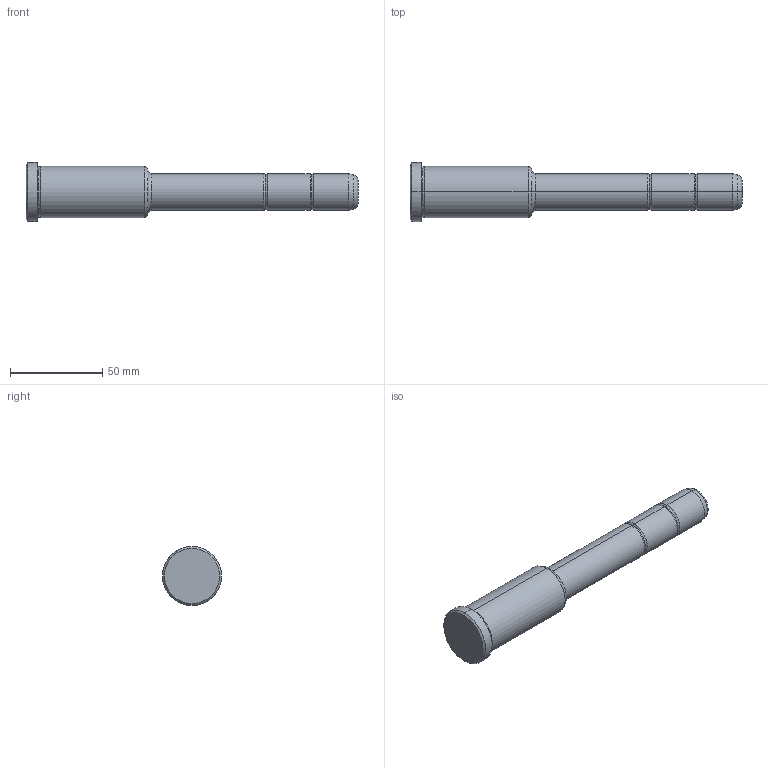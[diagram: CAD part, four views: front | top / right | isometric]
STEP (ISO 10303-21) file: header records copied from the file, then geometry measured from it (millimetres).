
FILE_DESCRIPTION(('CATIA V5 STEP Exchange'),'2;1');
FILE_NAME('C:\Users\Utente\Desktop\IO LAVORO\3D X SITO CF\X SITO\PLASTICA\351\351-20X66X180.stp','2021-08-27T13:13:10+00:00',('none'),('none'),'CATIA Version 5 Release 20 GA (IN-10)','CATIA V5 STEP AP203','none');
FILE_SCHEMA(('CONFIG_CONTROL_DESIGN'));
Length unit declared in the file: millimetre
Products named in the file (1): 351-20X66X180
Bounding box: 180 x 32 x 32 mm (x, y, z)
Volume: 77092.6 mm3; surface area: 14386.5 mm2
Topology: 1 solids, 1 shells, 36 faces, 102 edges, 70 vertices
Faces by surface type: torus 16, cylinder 10, cone 6, plane 4
Entity records: 1292 total; most frequent: CARTESIAN_POINT 321, ORIENTED_EDGE 204, DIRECTION 166, AXIS2_PLACEMENT_3D 115, EDGE_CURVE 102, CIRCLE 78, VERTEX_POINT 70, EDGE_LOOP 38
